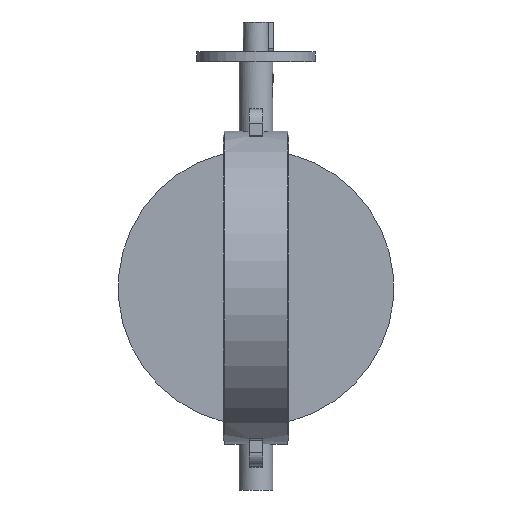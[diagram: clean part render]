
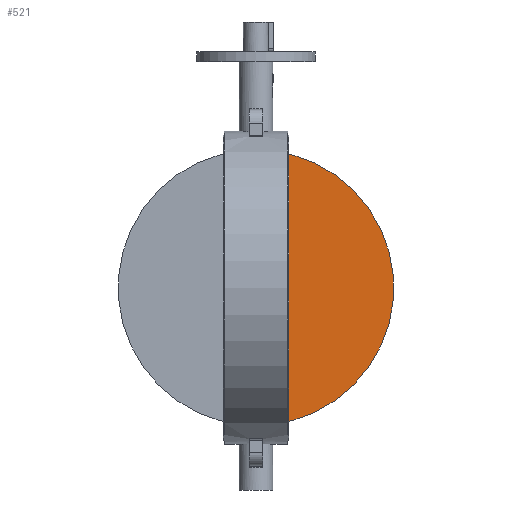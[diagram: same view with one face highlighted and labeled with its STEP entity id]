
A CAD part, front view. The second image highlights one B-rep face of the part: STEP entity #521.
In plain terms, the highlighted planar face has unit normal (0, -1, 0).
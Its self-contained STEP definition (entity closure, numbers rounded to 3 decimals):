
#521=ADVANCED_FACE('',(#1332),#1334,.T.);
#1332=FACE_BOUND('',#1333,.T.);
#1333=EDGE_LOOP('',(#1926,#1927));
#1334=PLANE('',#1335);
#1335=AXIS2_PLACEMENT_3D('',#1336,#1337,#1338);
#1336=CARTESIAN_POINT('',(0.,-10.,0.));
#1337=DIRECTION('',(0.,-1.,0.));
#1338=DIRECTION('',(0.,0.,1.));
#1926=ORIENTED_EDGE('',*,*,#2188,.T.);
#1927=ORIENTED_EDGE('',*,*,#2227,.T.);
#2188=EDGE_CURVE('',#2484,#2481,#2485,.T.);
#2227=EDGE_CURVE('',#2481,#2484,#2542,.T.);
#2481=VERTEX_POINT('',#3738);
#2484=VERTEX_POINT('',#3783);
#2485=LINE('',#3784,#3785);
#2542=CIRCLE('',#4053,347.5);
#3738=CARTESIAN_POINT('',(30.923,-10.,-346.121));
#3783=CARTESIAN_POINT('',(30.923,-10.,346.121));
#3784=CARTESIAN_POINT('',(30.923,-10.,346.121));
#3785=VECTOR('',#3786,1.);
#3786=DIRECTION('',(0.,0.,-1.));
#4053=AXIS2_PLACEMENT_3D('',#4054,#4055,#4056);
#4054=CARTESIAN_POINT('',(0.,-10.,0.));
#4055=DIRECTION('',(0.,-1.,0.));
#4056=DIRECTION('',(0.089,0.,-0.996));
